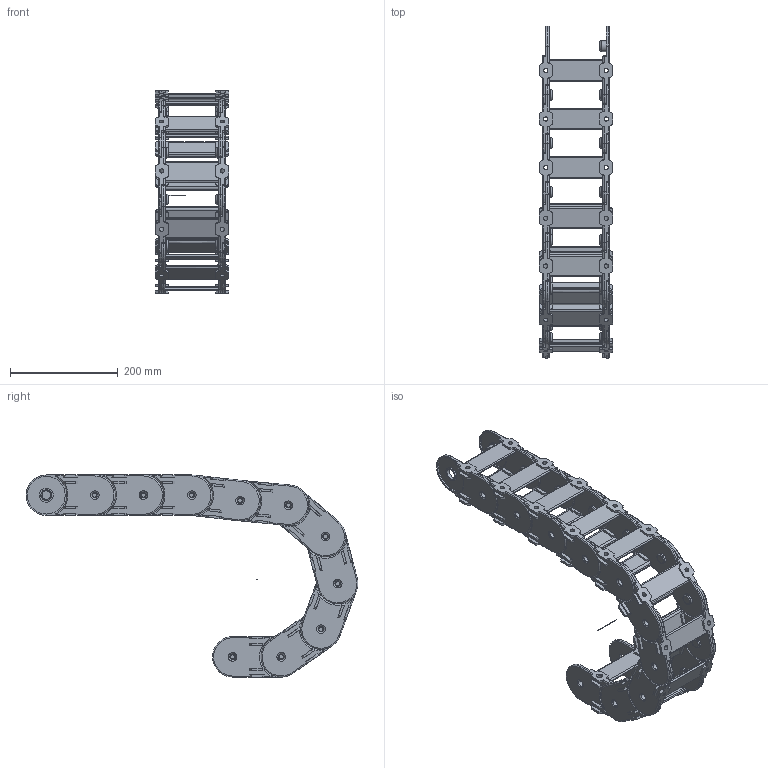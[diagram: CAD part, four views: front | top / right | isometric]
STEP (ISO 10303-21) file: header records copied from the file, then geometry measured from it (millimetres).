
FILE_DESCRIPTION((''),'2;1');
FILE_NAME('C:\Uebbing\TRACE PARTS\PKK\PKK 321\PKK 321 vereinfacht.stp','2013-06-10T09:20:00',('Uebbing'),(''),'Autodesk Inventor 10','Autodesk Inventor 10','');
FILE_SCHEMA(('AUTOMOTIVE_DESIGN { 1 0 10303 214 1 1 1 1 }'));
Length unit declared in the file: millimetre
Products named in the file (3): PKK 321 vereinfacht; Achse; PKK320 Glied vereinfacht
Assembly tree (11 placements, depth 2):
  PKK 321 vereinfacht
    Achse
    PKK320 Glied vereinfacht  x10
Bounding box: 136 x 615.52 x 375 mm (x, y, z)
Volume: 1798427.4 mm3; surface area: 803343 mm2
Topology: 11 solids, 11 shells, 2063 faces, 5464 edges, 3443 vertices
Faces by surface type: plane 802, cylinder 541, bspline 420, torus 220, sphere 80
Full cylindrical faces by diameter (mm): 1 x1, 8 x20, 12 x20, 20 x20, 20.2 x20, 26 x40, 70 x40
Entity records: 7159 total; most frequent: CARTESIAN_POINT 2035, ORIENTED_EDGE 1028, DIRECTION 1024, EDGE_CURVE 514, AXIS2_PLACEMENT_3D 359, VERTEX_POINT 344, VECTOR 306, LINE 306
